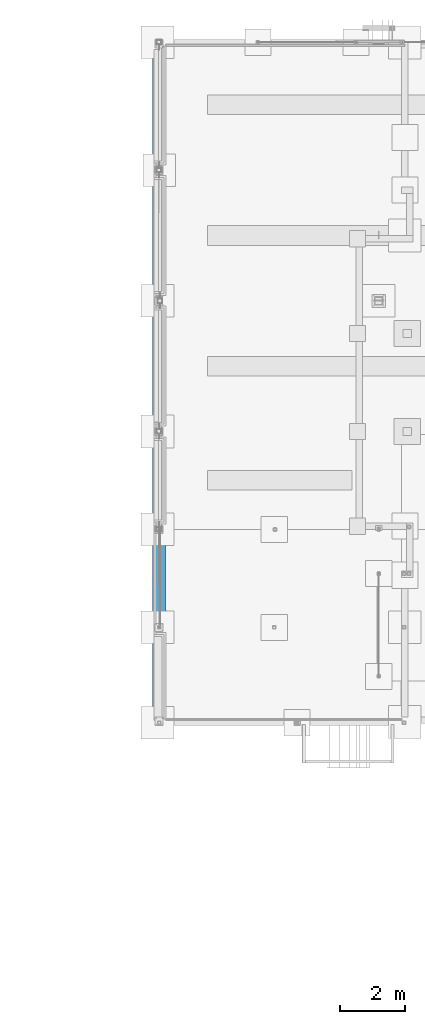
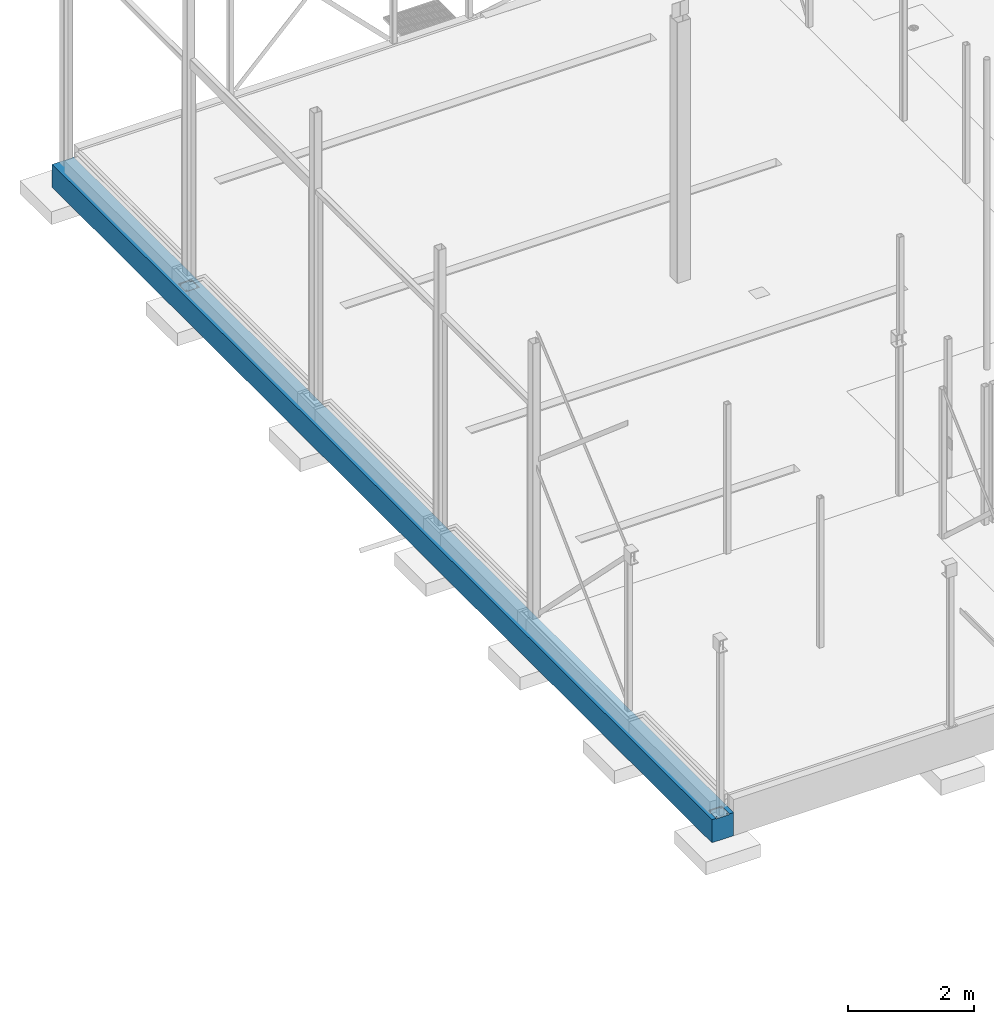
# One storey, part 13 of 18: 1 wall.
"""IFC2X3 building model written with IfcOpenShell, lengths in millimetres."""

import ifcopenshell
import ifcopenshell.guid

model = None  # the IFC model being written
_history = None  # IfcOwnerHistory: only IFC2X3 demands one
_inside = {}  # id of a spatial element -> (the spatial element, [elements in it])
_under = {}  # id of a project, library or spatial element -> (it, [spatial elements below it])
_declared = {}  # id of a project -> (the project, [libraries it declares])
_typed = {}  # id of a type object -> (the type object, [elements of that type])
_made_of = {}  # id of a material, layer set ... -> (it, [elements and type objects made of it])


def new_model(schema):
    """Start an empty IFC model of exactly this schema.

    Asked for "IFC4X3", IfcOpenShell would pick the latest addendum, in which some entities
    have other attributes; the version numbers below select the first issue.
    IFC2X3 requires an IfcOwnerHistory on every rooted entity: one is made here for all.
    """
    global model, _history
    if schema == "IFC4X3":
        model = ifcopenshell.file(schema_version=(4, 3, 0, 0))
    else:
        model = ifcopenshell.file(schema=schema)
    _inside.clear()
    _under.clear()
    _declared.clear()
    _typed.clear()
    _made_of.clear()
    _history = None
    if model.schema == "IFC2X3":
        org = make("IfcOrganization", Name="unknown")
        user = make(
            "IfcPersonAndOrganization",
            ThePerson=make("IfcPerson", FamilyName="unknown"),
            TheOrganization=org,
        )
        app = make(
            "IfcApplication",
            ApplicationDeveloper=org,
            Version="unknown",
            ApplicationFullName="unknown",
            ApplicationIdentifier="unknown",
        )
        _history = make(
            "IfcOwnerHistory",
            OwningUser=user,
            OwningApplication=app,
            ChangeAction="ADDED",
            CreationDate=0,
        )
    return model


def make(cls, **values):
    """One entity of the class cls with the attributes given. An attribute that is None is left unset."""
    return model.create_entity(
        cls, **{name: value for name, value in values.items() if value is not None}
    )


def entity(cls, *values):
    """Any entity or typed value of the class cls, its attributes in the order of the schema. None: left unset."""
    e = model.create_entity(cls)
    for i, value in enumerate(values):
        if value is not None:
            e[i] = value
    return e


def rooted(cls, **values):
    """An entity with a GlobalId (a new one), such as an element, a storey or a relation."""
    return make(cls, GlobalId=ifcopenshell.guid.new(), OwnerHistory=_history, **values)


def si_unit(unit_type, name, prefix=None):
    """IfcSIUnit, for example si_unit("LENGTHUNIT", "METRE", prefix="MILLI")."""
    return make("IfcSIUnit", UnitType=unit_type, Prefix=prefix, Name=name)


def converted_unit(unit_type, name, factor, base, dimensions=None, offset=None):
    """IfcConversionBasedUnit, such as the inch: factor (a typed value) times the base unit."""
    return make(
        "IfcConversionBasedUnit"
        if offset is None
        else "IfcConversionBasedUnitWithOffset",
        ConversionOffset=offset,
        Dimensions=None
        if dimensions is None
        else entity("IfcDimensionalExponents", *dimensions),
        UnitType=unit_type,
        Name=name,
        ConversionFactor=make(
            "IfcMeasureWithUnit", ValueComponent=factor, UnitComponent=base
        ),
    )


def derived_unit(unit_type, elements):
    """IfcDerivedUnit: a product of units, each with its exponent."""
    return make(
        "IfcDerivedUnit",
        Elements=[
            make("IfcDerivedUnitElement", Unit=unit, Exponent=power)
            for unit, power in elements
        ],
        UnitType=unit_type,
    )


def assignment(units):
    """IfcUnitAssignment: the units of a project."""
    return None if units is None else make("IfcUnitAssignment", Units=units)


def point(xyz):
    """IfcCartesianPoint."""
    return None if xyz is None else make("IfcCartesianPoint", Coordinates=xyz)


def direction(xyz):
    """IfcDirection."""
    return None if xyz is None else make("IfcDirection", DirectionRatios=xyz)


def frame(location, z_axis=None, x_axis=None):
    """IfcAxis2Placement3D, a coordinate frame: its origin and axes. An axis left out is left unset."""
    return make(
        "IfcAxis2Placement3D",
        Location=point(location),
        Axis=direction(z_axis),
        RefDirection=direction(x_axis),
    )


def origin():
    """The frame at (0, 0, 0) with its axes left unset."""
    return frame((0.0, 0.0, 0.0))


def place(relative_to, where):
    """IfcLocalPlacement: puts the frame where relative to a parent placement (None: the world)."""
    return make(
        "IfcLocalPlacement", PlacementRelTo=relative_to, RelativePlacement=where
    )


def context(
    kind, dimensions, precision=None, world=None, true_north=None, identifier=None
):
    """IfcGeometricRepresentationContext, for example the 3D "Model" context."""
    return make(
        "IfcGeometricRepresentationContext",
        ContextIdentifier=identifier,
        ContextType=kind,
        CoordinateSpaceDimension=dimensions,
        Precision=precision,
        WorldCoordinateSystem=world,
        TrueNorth=true_north,
    )


def subcontext(parent, identifier, kind, view, scale=None):
    """IfcGeometricRepresentationSubContext, for example "Body" below "Model"."""
    return make(
        "IfcGeometricRepresentationSubContext",
        ContextIdentifier=identifier,
        ContextType=kind,
        ParentContext=parent,
        TargetScale=scale,
        TargetView=view,
    )


def project(units=None, contexts=None):
    """IfcProject with its units and contexts."""
    return rooted(
        "IfcProject",
        Name="project",
        RepresentationContexts=contexts,
        UnitsInContext=assignment(units),
    )


def spatial(cls, under=None, at=None, **own):
    """A site, building, storey or space (cls), placed at a placement, below another one or the project."""
    s = rooted(cls, ObjectPlacement=at, **own)
    if under is not None:
        _under.setdefault(under.id(), (under, []))[1].append(s)
    return s


def faces_of(points, faces, orient=None, outer=None):
    """IfcFace entities. A face is a list of loops; a loop is a list of indices into points, from 0.

    orient and outer hold one flag for each loop. By default every Orientation is true, the
    first loop of a face is its IfcFaceOuterBound and the others are IfcFaceBound.
    """
    made = []
    for i, loops in enumerate(faces):
        bounds = []
        for j, loop in enumerate(loops):
            is_outer = j == 0 if outer is None else outer[i][j]
            bounds.append(
                make(
                    "IfcFaceOuterBound" if is_outer else "IfcFaceBound",
                    Bound=make("IfcPolyLoop", Polygon=[points[k] for k in loop]),
                    Orientation=True if orient is None else orient[i][j],
                )
            )
        made.append(make("IfcFace", Bounds=bounds))
    return made


def faceted_brep(points, faces, orient=None, outer=None, voids=None):
    """IfcFacetedBrep: a solid bounded by flat faces; with voids (closed shells), ...WithVoids."""
    shared = [point(p) for p in points]
    hull = make("IfcClosedShell", CfsFaces=faces_of(shared, faces, orient, outer))
    if voids is None:
        return make("IfcFacetedBrep", Outer=hull)
    return make(
        "IfcFacetedBrepWithVoids",
        Outer=hull,
        Voids=[
            make(cls, CfsFaces=faces_of(shared, fs, o, b)) for cls, fs, o, b in voids
        ],
    )


def shape(context_of_items, identifier, shape_type, items):
    """IfcShapeRepresentation: the items that make up one representation, for example the "Body"."""
    return make(
        "IfcShapeRepresentation",
        ContextOfItems=context_of_items,
        RepresentationIdentifier=identifier,
        RepresentationType=shape_type,
        Items=items,
    )


def material(Name=None, Category=None):
    """IfcMaterial."""
    return make("IfcMaterial", Name=Name, Category=Category)


def made_of(thing, what):
    """Note that an element or type object is made of a material, layer set ...; save() writes the relation."""
    if what is not None:
        _made_of.setdefault(what.id(), (what, []))[1].append(thing)
    return thing


def type_object(cls, material=None, **own):
    """A type object (cls), such as IfcWallType, which elements share."""
    return made_of(rooted(cls, **own), material)


def element(
    cls,
    number,
    at=None,
    inside=None,
    cuts=None,
    type_object=None,
    material=None,
    context=None,
    identifier="Body",
    shape_type=None,
    held_by="IfcProductDefinitionShape",
    body=None,
    shapes=None,
    **own,
):
    """One element of the class cls, such as IfcWall. Its Tag is "e" and its number.

    at: its placement. inside: the storey or other place that contains it. cuts: it is an
    opening in that element (IfcRelVoidsElement). A single representation is given by context,
    identifier, shape_type and body (its items); several are given by shapes. held_by: the class
    of the entity that holds the representations. save() writes the other relations.
    """
    e = rooted(cls, Tag="e%d" % number, ObjectPlacement=at, **own)
    if body is not None:
        shapes = [shape(context, identifier, shape_type, body)]
    if shapes is not None:
        e.Representation = make(held_by, Representations=shapes)
    if inside is not None:
        _inside.setdefault(inside.id(), (inside, []))[1].append(e)
    if cuts is not None:
        rooted(
            "IfcRelVoidsElement", RelatingBuildingElement=cuts, RelatedOpeningElement=e
        )
    if type_object is not None:
        _typed.setdefault(type_object.id(), (type_object, []))[1].append(e)
    return made_of(e, material)


def aggregate(whole, parts):
    """IfcRelAggregates: a whole, such as a stair, and the parts it consists of."""
    return rooted("IfcRelAggregates", RelatingObject=whole, RelatedObjects=parts)


def save(model, path):
    """Write the relations noted so far, then the file.

    IfcRelAggregates (storeys below a building ...), IfcRelContainedInSpatialStructure (elements
    in a storey), IfcRelDefinesByType, IfcRelAssociatesMaterial and IfcRelDeclares: one each for
    every whole, place, type object, material and project.
    """
    for whole, parts in _under.values():
        aggregate(whole, parts)
    for where, things in _inside.values():
        rooted(
            "IfcRelContainedInSpatialStructure",
            RelatedElements=things,
            RelatingStructure=where,
        )
    for kind, things in _typed.values():
        rooted("IfcRelDefinesByType", RelatedObjects=things, RelatingType=kind)
    for what, things in _made_of.values():
        rooted("IfcRelAssociatesMaterial", RelatedObjects=things, RelatingMaterial=what)
    for by, libraries in _declared.values():
        rooted("IfcRelDeclares", RelatingContext=by, RelatedDefinitions=libraries)
    model.write(path)


model = new_model("IFC2X3")

# Units and contexts
model_context = context("Model", 3, precision=0.01, world=origin(), true_north=direction((6.12303176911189e-17, 1.0)))
body_context = subcontext(model_context, "Body", "Model", "MODEL_VIEW")
ifc_project = project(units=[si_unit("LENGTHUNIT", "METRE", prefix="MILLI"), si_unit("AREAUNIT", "SQUARE_METRE"), si_unit("VOLUMEUNIT", "CUBIC_METRE"), converted_unit("PLANEANGLEUNIT", "DEGREE", entity("IfcRatioMeasure", 0.0174532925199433), si_unit("PLANEANGLEUNIT", "RADIAN"), dimensions=[0, 0, 0, 0, 0, 0, 0]), si_unit("MASSUNIT", "GRAM", prefix="KILO"), derived_unit("MASSDENSITYUNIT", [(si_unit("MASSUNIT", "GRAM", prefix="KILO"), 1), (si_unit("LENGTHUNIT", "METRE"), -3)]), si_unit("TIMEUNIT", "SECOND"), si_unit("FREQUENCYUNIT", "HERTZ"), si_unit("THERMODYNAMICTEMPERATUREUNIT", "DEGREE_CELSIUS"), derived_unit("THERMALTRANSMITTANCEUNIT", [(si_unit("MASSUNIT", "GRAM", prefix="KILO"), 1), (si_unit("THERMODYNAMICTEMPERATUREUNIT", "KELVIN"), -1), (si_unit("TIMEUNIT", "SECOND"), -3)]), derived_unit("VOLUMETRICFLOWRATEUNIT", [(si_unit("LENGTHUNIT", "METRE"), 3), (si_unit("TIMEUNIT", "SECOND"), -1)]), si_unit("ELECTRICCURRENTUNIT", "AMPERE"), si_unit("ELECTRICVOLTAGEUNIT", "VOLT"), si_unit("POWERUNIT", "WATT"), si_unit("FORCEUNIT", "NEWTON", prefix="KILO"), si_unit("ILLUMINANCEUNIT", "LUX"), si_unit("LUMINOUSFLUXUNIT", "LUMEN"), si_unit("LUMINOUSINTENSITYUNIT", "CANDELA"), derived_unit("USERDEFINED", [(si_unit("MASSUNIT", "GRAM", prefix="KILO"), -1), (si_unit("LENGTHUNIT", "METRE"), -2), (si_unit("TIMEUNIT", "SECOND"), 3), (si_unit("LUMINOUSFLUXUNIT", "LUMEN"), 1)]), derived_unit("LINEARVELOCITYUNIT", [(si_unit("LENGTHUNIT", "METRE"), 1), (si_unit("TIMEUNIT", "SECOND"), -1)]), si_unit("PRESSUREUNIT", "PASCAL"), derived_unit("USERDEFINED", [(si_unit("LENGTHUNIT", "METRE"), -2), (si_unit("MASSUNIT", "GRAM", prefix="KILO"), 1), (si_unit("TIMEUNIT", "SECOND"), -2)])], contexts=[model_context])

# Site, building, storey
site_placement = place(None, frame((0.0, 0.0, 101000.0)))
site = spatial("IfcSite", under=ifc_project, at=site_placement, Name="Default", CompositionType="ELEMENT")
building_placement = place(site_placement, origin())
building = spatial("IfcBuilding", under=site, at=building_placement, CompositionType="ELEMENT")
storey_placement = place(building_placement, origin())
storey = spatial("IfcBuildingStorey", under=building, at=storey_placement, Name="01", CompositionType="ELEMENT", Elevation=8.9295595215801e-10)

# Wall
ifc_material = material(Name="Betong Plasstøpt - B35")
wall_type = type_object("IfcWallType", Name="Basic Wall:OPPKANT 400", PredefinedType="NOTDEFINED")
wall_placement = place(storey_placement, frame((3761.26449698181, 23417.9507529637, -700.0), z_axis=(0.0, 0.0, 1.0), x_axis=(0.0, 1.0, 0.0)))
element("IfcWall", 1, at=wall_placement, inside=storey, type_object=wall_type, material=ifc_material, Name="Basic Wall:OPPKANT 400", ObjectType="Basic Wall:OPPKANT 400", context=body_context, shape_type="Brep", body=[
    faceted_brep([(34.0, 88.071796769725, 450.0), (30.0, 87.0, 450.0), (32.0705523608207, 87.2725933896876, 450.0), (36.9282032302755, 91.0, 450.0), (35.6568542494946, 89.3431457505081, 450.0), (37.7274066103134, 92.9294476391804, 450.0), (38.0, 95.0, 450.0), (26.0, 88.071796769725, 450.0), (23.0717967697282, 91.0, 450.0), (27.929447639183, 87.2725933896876, 450.0), (24.3431457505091, 89.3431457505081, 450.0), (22.0, 95.0, 450.0), (22.2725933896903, 92.9294476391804, 450.0), (36.9282032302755, 99.0, 450.0), (34.0, 101.928203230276, 450.0), (35.6568542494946, 100.656854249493, 450.0), (32.0705523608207, 102.727406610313, 450.0), (30.0, 103.0, 450.0), (26.0, 101.928203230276, 450.0), (23.0717967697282, 99.0, 450.0), (22.2725933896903, 97.0705523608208, 450.0), (24.3431457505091, 100.656854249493, 450.0), (27.929447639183, 102.727406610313, 450.0), (37.7274066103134, 97.0705523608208, 450.0), (224.0, 88.0717967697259, 450.0), (220.0, 87.0, 450.0), (222.070552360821, 87.2725933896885, 450.0), (226.928203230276, 91.0, 450.0), (225.656854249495, 89.343145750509, 450.0), (227.727406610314, 92.9294476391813, 450.0), (228.0, 95.0, 450.0), (216.0, 88.0717967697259, 450.0), (213.071796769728, 91.0, 450.0), (217.929447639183, 87.2725933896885, 450.0), (214.343145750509, 89.343145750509, 450.0), (212.0, 95.0, 450.0), (212.27259338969, 92.9294476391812, 450.0), (226.928203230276, 99.0, 450.0), (224.0, 101.928203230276, 450.0), (225.656854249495, 100.656854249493, 450.0), (222.070552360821, 102.727406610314, 450.0), (220.0, 103.0, 450.0), (216.0, 101.928203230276, 450.0), (213.071796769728, 99.0, 450.0), (212.27259338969, 97.0705523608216, 450.0), (214.343145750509, 100.656854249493, 450.0), (217.929447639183, 102.727406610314, 450.0), (227.727406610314, 97.0705523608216, 450.0), (17097.0705523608, 87.272593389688, 450.0), (17099.0, 88.0717967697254, 450.0), (17100.6568542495, 89.3431457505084, 450.0), (17095.0, 87.0, 450.0), (17101.9282032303, 91.0, 450.0), (17102.7274066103, 92.9294476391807, 450.0), (17103.0, 95.0, 450.0), (17089.3431457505, 100.656854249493, 450.0), (17089.3431457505, 89.3431457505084, 450.0), (17092.9294476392, 87.272593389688, 450.0), (17091.0, 88.0717967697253, 450.0), (17088.0717967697, 91.0, 450.0), (17087.0, 95.0, 450.0), (17087.2725933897, 92.9294476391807, 450.0), (17100.6568542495, 100.656854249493, 450.0), (17101.9282032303, 99.0, 450.0), (17097.0705523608, 102.727406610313, 450.0), (17095.0, 103.0, 450.0), (17099.0, 101.928203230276, 450.0), (17088.0717967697, 99.0, 450.0), (17087.2725933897, 97.0705523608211, 450.0), (17092.9294476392, 102.727406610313, 450.0), (17091.0, 101.928203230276, 450.0), (17102.7274066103, 97.0705523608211, 450.0), (16907.0705523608, 87.2725933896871, 450.0), (16909.0, 88.0717967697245, 450.0), (16910.6568542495, 89.3431457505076, 450.0), (16905.0, 87.0, 450.0), (16911.9282032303, 91.0, 450.0), (16912.7274066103, 92.9294476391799, 450.0), (16913.0, 95.0, 450.0), (16899.3431457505, 100.656854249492, 450.0), (16899.3431457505, 89.3431457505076, 450.0), (16902.9294476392, 87.2725933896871, 450.0), (16901.0, 88.0717967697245, 450.0), (16898.0717967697, 91.0, 450.0), (16897.0, 95.0, 450.0), (16897.2725933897, 92.9294476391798, 450.0), (16910.6568542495, 100.656854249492, 450.0), (16911.9282032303, 99.0, 450.0), (16907.0705523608, 102.727406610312, 450.0), (16905.0, 103.0, 450.0), (16909.0, 101.928203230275, 450.0), (16898.0717967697, 99.0, 450.0), (16897.2725933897, 97.0705523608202, 450.0), (16902.9294476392, 102.727406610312, 450.0), (16901.0, 101.928203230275, 450.0), (16912.7274066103, 97.0705523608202, 450.0), (34.0, -101.928203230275, 450.0), (30.0, -103.0, 450.0), (32.0705523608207, -102.727406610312, 450.0), (36.9282032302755, -99.0, 450.0), (35.6568542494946, -100.656854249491, 450.0), (37.7274066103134, -97.0705523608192, 450.0), (38.0, -95.0, 450.0), (26.0, -101.928203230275, 450.0), (23.0717967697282, -99.0, 450.0), (27.929447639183, -102.727406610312, 450.0), (24.3431457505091, -100.656854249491, 450.0), (22.0, -95.0, 450.0), (22.2725933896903, -97.0705523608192, 450.0), (36.9282032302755, -91.0, 450.0), (34.0, -88.071796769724, 450.0), (35.6568542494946, -89.343145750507, 450.0), (32.0705523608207, -87.2725933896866, 450.0), (30.0, -87.0, 450.0), (26.0, -88.071796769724, 450.0), (23.0717967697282, -91.0, 450.0), (22.2725933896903, -92.9294476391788, 450.0), (24.3431457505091, -89.343145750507, 450.0), (27.929447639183, -87.2725933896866, 450.0), (37.7274066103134, -92.9294476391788, 450.0), (224.0, -101.928203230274, 450.0), (220.0, -103.0, 450.0), (222.070552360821, -102.727406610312, 450.0), (226.928203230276, -99.0, 450.0), (225.656854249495, -100.656854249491, 450.0), (227.727406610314, -97.0705523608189, 450.0), (228.0, -95.0, 450.0), (216.0, -101.928203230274, 450.0), (213.071796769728, -99.0, 450.0), (217.929447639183, -102.727406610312, 450.0), (214.343145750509, -100.656854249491, 450.0), (212.0, -95.0, 450.0), (212.27259338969, -97.0705523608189, 450.0), (226.928203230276, -91.0, 450.0), (224.0, -88.0717967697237, 450.0), (225.656854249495, -89.3431457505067, 450.0), (222.070552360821, -87.2725933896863, 450.0), (220.0, -87.0, 450.0), (216.0, -88.0717967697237, 450.0), (213.071796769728, -91.0, 450.0), (212.27259338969, -92.9294476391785, 450.0), (214.343145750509, -89.3431457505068, 450.0), (217.929447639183, -87.2725933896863, 450.0), (227.727406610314, -92.9294476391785, 450.0), (16907.0705523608, -102.727406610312, 450.0), (16909.0, -101.928203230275, 450.0), (16910.6568542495, -100.656854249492, 450.0), (16905.0, -103.0, 450.0), (16911.9282032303, -99.0, 450.0), (16912.7274066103, -97.0705523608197, 450.0), (16913.0, -95.0, 450.0), (16899.3431457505, -89.3431457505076, 450.0), (16899.3431457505, -100.656854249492, 450.0), (16902.9294476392, -102.727406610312, 450.0), (16901.0, -101.928203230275, 450.0), (16898.0717967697, -99.0, 450.0), (16897.0, -95.0, 450.0), (16897.2725933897, -97.0705523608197, 450.0), (16910.6568542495, -89.3431457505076, 450.0), (16911.9282032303, -91.0, 450.0), (16907.0705523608, -87.2725933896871, 450.0), (16905.0, -87.0, 450.0), (16909.0, -88.0717967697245, 450.0), (16898.0717967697, -91.0, 450.0), (16897.2725933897, -92.9294476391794, 450.0), (16902.9294476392, -87.2725933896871, 450.0), (16901.0, -88.0717967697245, 450.0), (16912.7274066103, -92.9294476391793, 450.0), (17097.0705523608, -102.727406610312, 450.0), (17099.0, -101.928203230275, 450.0), (17100.6568542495, -100.656854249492, 450.0), (17095.0, -103.0, 450.0), (17101.9282032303, -99.0, 450.0), (17102.7274066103, -97.0705523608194, 450.0), (17103.0, -95.0, 450.0), (17089.3431457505, -89.3431457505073, 450.0), (17089.3431457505, -100.656854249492, 450.0), (17092.9294476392, -102.727406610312, 450.0), (17091.0, -101.928203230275, 450.0), (17088.0717967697, -99.0, 450.0), (17087.0, -95.0, 450.0), (17087.2725933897, -97.0705523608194, 450.0), (17100.6568542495, -89.3431457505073, 450.0), (17101.9282032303, -91.0, 450.0), (17097.0705523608, -87.2725933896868, 450.0), (17095.0, -87.0, 450.0), (17099.0, -88.0717967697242, 450.0), (17088.0717967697, -91.0, 450.0), (17087.2725933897, -92.9294476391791, 450.0), (17092.9294476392, -87.2725933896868, 450.0), (17091.0, -88.0717967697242, 450.0), (17102.7274066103, -92.929447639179, 450.0), (21000.0, -200.0, 450.0), (17125.0, -125.0, 450.0), (16875.0, -125.0, 450.0), (17125.0, 125.0, 450.0), (0.0, -200.0, 450.0), (250.0, -125.0, 450.0), (0.0, -125.0, 450.0), (16875.0, 125.0, 450.0), (21000.0, 200.0, 450.0), (0.0, 200.0, 450.0), (250.0, 125.0, 450.0), (0.0, 125.0, 450.0), (0.0, -200.0, 0.0), (21000.0, -200.0, 0.0), (21000.0, 200.0, 0.0), (0.0, 200.0, 0.0), (0.0, -125.0, 435.0), (0.0, 125.0, 435.0), (17097.0705523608, 102.727406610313, 435.0), (17099.0, 101.928203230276, 435.0), (17125.0, 125.0, 435.0), (17100.6568542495, 100.656854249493, 435.0), (17095.0, 103.0, 435.0), (17101.9282032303, 99.0, 435.0), (17102.7274066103, 97.0705523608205, 435.0), (17103.0, 95.0, 435.0), (17091.0, 101.928203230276, 435.0), (17092.9294476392, 102.727406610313, 435.0), (16912.7274066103, 97.0705523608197, 435.0), (17087.2725933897, 97.0705523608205, 435.0), (17088.0717967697, 99.0, 435.0), (16911.9282032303, 99.0, 435.0), (17089.3431457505, 100.656854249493, 435.0), (16910.6568542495, 100.656854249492, 435.0), (16909.0, 101.928203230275, 435.0), (17102.7274066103, 92.9294476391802, 435.0), (17101.9282032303, 91.0, 435.0), (17099.0, -88.0717967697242, 435.0), (17100.6568542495, 89.3431457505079, 435.0), (17099.0, 88.0717967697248, 435.0), (17097.0705523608, -87.2725933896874, 435.0), (17097.0705523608, 87.272593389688, 435.0), (17100.6568542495, -89.3431457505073, 435.0), (16912.7274066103, 92.9294476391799, 435.0), (17088.0717967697, 91.0, 435.0), (17087.2725933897, 92.9294476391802, 435.0), (17087.0, 95.0, 435.0), (17091.0, 88.0717967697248, 435.0), (17092.9294476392, -87.2725933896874, 435.0), (17092.9294476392, 87.272593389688, 435.0), (17089.3431457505, 89.3431457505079, 435.0), (16910.6568542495, 89.3431457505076, 435.0), (16910.6568542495, -89.3431457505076, 435.0), (17091.0, -88.0717967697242, 435.0), (16911.9282032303, 91.0, 435.0), (17095.0, 87.0, 435.0), (17095.0, -87.0, 435.0), (17101.9282032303, -91.0, 435.0), (16913.0, 95.0, 435.0), (16875.0, 125.0, 435.0), (16905.0, 103.0, 435.0), (16907.0705523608, 102.727406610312, 435.0), (16901.0, 101.928203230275, 435.0), (16902.9294476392, 102.727406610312, 435.0), (16899.3431457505, 100.656854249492, 435.0), (16897.2725933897, 97.0705523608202, 435.0), (16898.0717967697, 99.0, 435.0), (16897.0, 95.0, 435.0), (16909.0, 88.0717967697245, 435.0), (16909.0, -88.0717967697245, 435.0), (16907.0705523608, 87.2725933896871, 435.0), (16907.0705523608, -87.2725933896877, 435.0), (16898.0717967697, 91.0, 435.0), (16897.2725933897, 92.9294476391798, 435.0), (16905.0, -87.0, 435.0), (16905.0, 87.0, 435.0), (16902.9294476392, 87.2725933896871, 435.0), (16901.0, -88.0717967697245, 435.0), (16901.0, 88.0717967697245, 435.0), (16899.3431457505, 89.3431457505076, 435.0), (16902.9294476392, -87.2725933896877, 435.0), (16899.3431457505, -89.3431457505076, 435.0), (16898.0717967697, -91.0, 435.0), (17125.0, -125.0, 435.0), (17102.7274066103, -92.9294476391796, 435.0), (17089.3431457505, -89.3431457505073, 435.0), (16912.7274066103, -92.9294476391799, 435.0), (17087.0, -95.0, 435.0), (17087.2725933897, -92.9294476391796, 435.0), (17088.0717967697, -91.0, 435.0), (16911.9282032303, -91.0, 435.0), (17103.0, -95.0, 435.0), (17102.7274066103, -97.0705523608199, 435.0), (17101.9282032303, -99.0, 435.0), (17099.0, -101.928203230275, 435.0), (17100.6568542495, -100.656854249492, 435.0), (17097.0705523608, -102.727406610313, 435.0), (16911.9282032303, -99.0, 435.0), (17089.3431457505, -100.656854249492, 435.0), (17088.0717967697, -99.0, 435.0), (16912.7274066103, -97.0705523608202, 435.0), (17087.2725933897, -97.07055236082, 435.0), (17095.0, -103.0, 435.0), (17092.9294476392, -102.727406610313, 435.0), (17091.0, -101.928203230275, 435.0), (16910.6568542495, -100.656854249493, 435.0), (16909.0, -101.928203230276, 435.0), (16913.0, -95.0, 435.0), (16875.0, -125.0, 435.0), (16897.2725933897, -92.9294476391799, 435.0), (16907.0705523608, -102.727406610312, 435.0), (16905.0, -103.0, 435.0), (16898.0717967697, -99.0, 435.0), (16897.2725933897, -97.0705523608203, 435.0), (16897.0, -95.0, 435.0), (16902.9294476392, -102.727406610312, 435.0), (16901.0, -101.928203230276, 435.0), (16899.3431457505, -100.656854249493, 435.0), (222.070552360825, 102.727406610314, 435.0), (224.0, 101.928203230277, 435.0), (250.0, 125.0, 435.0), (225.656854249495, 100.656854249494, 435.0), (220.0, 103.0, 435.0), (226.92820323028, 99.0, 435.0), (227.727406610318, 97.0705523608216, 435.0), (228.0, 95.0, 435.0), (216.0, 101.928203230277, 435.0), (217.929447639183, 102.727406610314, 435.0), (37.7274066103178, 97.0705523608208, 435.0), (212.27259338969, 97.0705523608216, 435.0), (213.071796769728, 99.0, 435.0), (36.9282032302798, 99.0, 435.0), (214.343145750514, 100.656854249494, 435.0), (35.6568542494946, 100.656854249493, 435.0), (34.0, 101.928203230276, 435.0), (227.727406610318, 92.9294476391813, 435.0), (226.92820323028, 91.0, 435.0), (224.0, -88.0717967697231, 435.0), (225.656854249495, 89.343145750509, 435.0), (224.0, 88.0717967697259, 435.0), (222.070552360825, -87.2725933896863, 435.0), (222.070552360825, 87.272593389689, 435.0), (225.656854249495, -89.3431457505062, 435.0), (37.7274066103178, 92.929447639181, 435.0), (213.071796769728, 91.0, 435.0), (212.27259338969, 92.9294476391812, 435.0), (212.0, 95.0, 435.0), (216.0, 88.0717967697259, 435.0), (217.929447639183, -87.2725933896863, 435.0), (217.929447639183, 87.272593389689, 435.0), (214.343145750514, 89.343145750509, 435.0), (35.6568542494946, 89.3431457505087, 435.0), (35.6568542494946, -89.3431457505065, 435.0), (216.0, -88.0717967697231, 435.0), (36.9282032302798, 91.0, 435.0), (220.0, 87.0, 435.0), (220.0, -87.0, 435.0), (226.92820323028, -91.0, 435.0), (38.0, 95.0, 435.0), (30.0, 103.0, 435.0), (32.070552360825, 102.727406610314, 435.0), (26.0, 101.928203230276, 435.0), (27.929447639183, 102.727406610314, 435.0), (24.3431457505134, 100.656854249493, 435.0), (22.2725933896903, 97.0705523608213, 435.0), (23.0717967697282, 99.0, 435.0), (22.0, 95.0, 435.0), (34.0, 88.0717967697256, 435.0), (34.0, -88.0717967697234, 435.0), (32.070552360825, 87.2725933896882, 435.0), (32.070552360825, -87.2725933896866, 435.0), (23.0717967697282, 91.0, 435.0), (22.2725933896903, 92.9294476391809, 435.0), (30.0, -87.0, 435.0), (30.0, 87.0, 435.0), (27.929447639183, 87.2725933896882, 435.0), (26.0, -88.0717967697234, 435.0), (26.0, 88.0717967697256, 435.0), (24.3431457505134, 89.3431457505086, 435.0), (27.929447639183, -87.2725933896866, 435.0), (24.3431457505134, -89.3431457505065, 435.0), (23.0717967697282, -91.0, 435.0), (250.0, -125.0, 435.0), (227.727406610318, -92.9294476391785, 435.0), (214.343145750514, -89.3431457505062, 435.0), (37.7274066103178, -92.9294476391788, 435.0), (212.0, -95.0, 435.0), (212.27259338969, -92.9294476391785, 435.0), (213.071796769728, -91.0, 435.0), (36.9282032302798, -91.0, 435.0), (228.0, -95.0, 435.0), (227.727406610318, -97.0705523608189, 435.0), (226.92820323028, -99.0, 435.0), (224.0, -101.928203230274, 435.0), (225.656854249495, -100.656854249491, 435.0), (222.070552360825, -102.727406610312, 435.0), (36.9282032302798, -99.0, 435.0), (214.343145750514, -100.656854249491, 435.0), (213.071796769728, -99.0, 435.0), (37.7274066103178, -97.0705523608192, 435.0), (212.27259338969, -97.0705523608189, 435.0), (220.0, -103.0, 435.0), (217.929447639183, -102.727406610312, 435.0), (216.0, -101.928203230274, 435.0), (35.6568542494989, -100.656854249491, 435.0), (34.0, -101.928203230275, 435.0), (38.0, -95.0, 435.0), (22.2725933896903, -92.9294476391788, 435.0), (32.070552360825, -102.727406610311, 435.0), (30.0, -103.0, 435.0), (23.0717967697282, -99.0, 435.0), (22.2725933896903, -97.0705523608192, 435.0), (22.0, -95.0, 435.0), (27.929447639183, -102.727406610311, 435.0), (26.0, -101.928203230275, 435.0), (24.3431457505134, -100.656854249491, 435.0)], [[[0, 1, 2]], [[3, 0, 4]], [[3, 5, 6]], [[7, 0, 3]], [[8, 3, 6]], [[1, 7, 9]], [[1, 0, 7]], [[7, 8, 10]], [[3, 8, 7]], [[8, 11, 12]], [[8, 6, 11]], [[11, 6, 13]], [[14, 13, 15]], [[14, 16, 17]], [[13, 14, 18]], [[17, 18, 14]], [[11, 19, 20]], [[11, 13, 19]], [[19, 18, 21]], [[19, 13, 18]], [[22, 18, 17]], [[13, 6, 23]], [[24, 25, 26]], [[27, 24, 28]], [[27, 29, 30]], [[31, 24, 27]], [[32, 27, 30]], [[25, 31, 33]], [[25, 24, 31]], [[31, 32, 34]], [[27, 32, 31]], [[32, 35, 36]], [[32, 30, 35]], [[35, 30, 37]], [[38, 37, 39]], [[38, 40, 41]], [[37, 38, 42]], [[41, 42, 38]], [[35, 43, 44]], [[35, 37, 43]], [[43, 42, 45]], [[43, 37, 42]], [[46, 42, 41]], [[37, 30, 47]], [[48, 49, 50]], [[51, 48, 50]], [[52, 53, 54]], [[52, 54, 50]], [[55, 56, 50]], [[57, 56, 58]], [[56, 57, 51]], [[59, 60, 61]], [[56, 51, 50]], [[59, 56, 60]], [[62, 50, 54]], [[63, 62, 54]], [[62, 55, 50]], [[64, 65, 62]], [[64, 62, 66]], [[55, 62, 65]], [[60, 67, 68]], [[67, 60, 55]], [[55, 69, 70]], [[60, 56, 55]], [[65, 69, 55]], [[54, 71, 63]], [[72, 73, 74]], [[75, 72, 74]], [[76, 77, 78]], [[76, 78, 74]], [[79, 80, 74]], [[81, 80, 82]], [[80, 81, 75]], [[83, 84, 85]], [[80, 75, 74]], [[83, 80, 84]], [[86, 74, 78]], [[87, 86, 78]], [[86, 79, 74]], [[88, 89, 86]], [[88, 86, 90]], [[79, 86, 89]], [[84, 91, 92]], [[91, 84, 79]], [[79, 93, 94]], [[84, 80, 79]], [[89, 93, 79]], [[78, 95, 87]], [[96, 97, 98]], [[99, 96, 100]], [[99, 101, 102]], [[103, 96, 99]], [[104, 99, 102]], [[97, 103, 105]], [[97, 96, 103]], [[103, 104, 106]], [[99, 104, 103]], [[104, 107, 108]], [[104, 102, 107]], [[107, 102, 109]], [[110, 109, 111]], [[110, 112, 113]], [[109, 110, 114]], [[113, 114, 110]], [[107, 115, 116]], [[107, 109, 115]], [[115, 114, 117]], [[115, 109, 114]], [[118, 114, 113]], [[109, 102, 119]], [[120, 121, 122]], [[123, 120, 124]], [[123, 125, 126]], [[127, 120, 123]], [[128, 123, 126]], [[121, 127, 129]], [[121, 120, 127]], [[127, 128, 130]], [[123, 128, 127]], [[128, 131, 132]], [[128, 126, 131]], [[131, 126, 133]], [[134, 133, 135]], [[134, 136, 137]], [[133, 134, 138]], [[137, 138, 134]], [[131, 139, 140]], [[131, 133, 139]], [[139, 138, 141]], [[139, 133, 138]], [[142, 138, 137]], [[133, 126, 143]], [[144, 145, 146]], [[147, 144, 146]], [[148, 149, 150]], [[148, 150, 146]], [[151, 152, 146]], [[153, 152, 154]], [[152, 153, 147]], [[155, 156, 157]], [[152, 147, 146]], [[155, 152, 156]], [[158, 146, 150]], [[159, 158, 150]], [[158, 151, 146]], [[160, 161, 158]], [[160, 158, 162]], [[151, 158, 161]], [[156, 163, 164]], [[163, 156, 151]], [[151, 165, 166]], [[156, 152, 151]], [[161, 165, 151]], [[150, 167, 159]], [[168, 169, 170]], [[171, 168, 170]], [[172, 173, 174]], [[172, 174, 170]], [[175, 176, 170]], [[177, 176, 178]], [[176, 177, 171]], [[179, 180, 181]], [[176, 171, 170]], [[179, 176, 180]], [[182, 170, 174]], [[183, 182, 174]], [[182, 175, 170]], [[184, 185, 182]], [[184, 182, 186]], [[175, 182, 185]], [[180, 187, 188]], [[187, 180, 175]], [[175, 189, 190]], [[180, 176, 175]], [[185, 189, 175]], [[174, 191, 183]], [[192, 193, 194]], [[193, 192, 195]], [[192, 194, 196]], [[196, 197, 198]], [[197, 196, 194]], [[194, 199, 197]], [[199, 195, 200]], [[200, 195, 192]], [[199, 200, 201]], [[202, 201, 203]], [[201, 202, 199]], [[199, 202, 197]], [[196, 204, 205, 192]], [[200, 206, 207, 201]], [[205, 204, 207, 206]], [[192, 205, 206, 200]], [[196, 198, 208, 209, 203, 201, 207, 204]], [[210, 211, 212]], [[213, 212, 211]], [[214, 210, 212]], [[212, 213, 215]], [[212, 215, 216]], [[216, 217, 212]], [[212, 218, 219]], [[212, 219, 214]], [[220, 221, 222]], [[223, 222, 224]], [[225, 224, 218]], [[226, 218, 212]], [[212, 217, 227]], [[212, 227, 228]], [[229, 230, 231]], [[232, 231, 233]], [[230, 234, 228]], [[235, 236, 237]], [[235, 237, 238]], [[239, 240, 241]], [[242, 243, 244]], [[239, 242, 245]], [[246, 242, 236]], [[247, 248, 233]], [[228, 249, 212]], [[250, 238, 221]], [[251, 252, 253]], [[251, 253, 226]], [[224, 225, 223]], [[222, 223, 220]], [[225, 218, 226]], [[254, 255, 251]], [[252, 251, 255]], [[256, 254, 251]], [[251, 257, 258]], [[251, 258, 256]], [[259, 257, 251]], [[212, 251, 226]], [[238, 250, 235]], [[236, 235, 246]], [[243, 260, 261]], [[260, 262, 263]], [[243, 242, 246]], [[251, 264, 265]], [[251, 265, 259]], [[266, 267, 268]], [[269, 270, 271]], [[270, 272, 268]], [[273, 271, 264]], [[263, 262, 267]], [[250, 221, 220]], [[274, 264, 251]], [[240, 247, 241]], [[233, 248, 232]], [[231, 232, 229]], [[228, 234, 249]], [[275, 249, 276]], [[234, 230, 229]], [[277, 242, 244]], [[277, 245, 242]], [[278, 279, 280]], [[278, 280, 281]], [[282, 281, 277]], [[245, 240, 239]], [[275, 283, 284]], [[275, 284, 285]], [[286, 275, 287]], [[285, 287, 275]], [[288, 275, 286]], [[275, 276, 283]], [[289, 290, 291]], [[292, 291, 293]], [[275, 288, 294]], [[275, 295, 296]], [[295, 275, 294]], [[297, 296, 290]], [[296, 298, 275]], [[275, 212, 249]], [[299, 293, 279]], [[261, 260, 263]], [[244, 243, 261]], [[281, 282, 278]], [[279, 278, 299]], [[282, 277, 244]], [[270, 269, 272]], [[268, 272, 266]], [[300, 301, 274]], [[264, 274, 273]], [[271, 273, 269]], [[263, 267, 266]], [[291, 292, 289]], [[290, 289, 297]], [[300, 298, 302]], [[300, 302, 303]], [[298, 296, 297]], [[300, 304, 305]], [[300, 305, 306]], [[300, 307, 308]], [[304, 300, 309]], [[308, 309, 300]], [[300, 303, 307]], [[301, 300, 306]], [[300, 275, 298]], [[292, 293, 299]], [[251, 300, 274]], [[248, 247, 240]], [[310, 311, 312]], [[313, 312, 311]], [[314, 310, 312]], [[312, 313, 315]], [[312, 315, 316]], [[316, 317, 312]], [[312, 318, 319]], [[312, 319, 314]], [[320, 321, 322]], [[323, 322, 324]], [[325, 324, 318]], [[326, 318, 312]], [[312, 317, 327]], [[312, 327, 328]], [[329, 330, 331]], [[332, 331, 333]], [[330, 334, 328]], [[335, 336, 337]], [[335, 337, 338]], [[339, 340, 341]], [[342, 343, 344]], [[339, 342, 345]], [[346, 342, 336]], [[347, 348, 333]], [[328, 349, 312]], [[350, 338, 321]], [[209, 351, 352]], [[209, 352, 326]], [[324, 325, 323]], [[322, 323, 320]], [[325, 318, 326]], [[353, 354, 209]], [[351, 209, 354]], [[355, 353, 209]], [[209, 356, 357]], [[209, 357, 355]], [[358, 356, 209]], [[312, 209, 326]], [[338, 350, 335]], [[336, 335, 346]], [[343, 359, 360]], [[359, 361, 362]], [[343, 342, 346]], [[209, 363, 364]], [[209, 364, 358]], [[365, 366, 367]], [[368, 369, 370]], [[369, 371, 367]], [[372, 370, 363]], [[362, 361, 366]], [[350, 321, 320]], [[373, 363, 209]], [[340, 347, 341]], [[333, 348, 332]], [[331, 332, 329]], [[328, 334, 349]], [[374, 349, 375]], [[334, 330, 329]], [[376, 342, 344]], [[376, 345, 342]], [[377, 378, 379]], [[377, 379, 380]], [[381, 380, 376]], [[345, 340, 339]], [[374, 382, 383]], [[374, 383, 384]], [[385, 374, 386]], [[384, 386, 374]], [[387, 374, 385]], [[374, 375, 382]], [[388, 389, 390]], [[391, 390, 392]], [[374, 387, 393]], [[374, 394, 395]], [[394, 374, 393]], [[396, 395, 389]], [[395, 397, 374]], [[374, 312, 349]], [[398, 392, 378]], [[360, 359, 362]], [[344, 343, 360]], [[380, 381, 377]], [[378, 377, 398]], [[381, 376, 344]], [[369, 368, 371]], [[367, 371, 365]], [[208, 399, 373]], [[363, 373, 372]], [[370, 372, 368]], [[362, 366, 365]], [[390, 391, 388]], [[389, 388, 396]], [[208, 397, 400]], [[208, 400, 401]], [[397, 395, 396]], [[208, 402, 403]], [[208, 403, 404]], [[208, 405, 406]], [[402, 208, 407]], [[406, 407, 208]], [[208, 401, 405]], [[399, 208, 404]], [[208, 374, 397]], [[391, 392, 398]], [[209, 208, 373]], [[348, 347, 340]], [[212, 275, 193, 195]], [[251, 212, 195, 199]], [[209, 312, 202, 203]], [[300, 251, 199, 194]], [[275, 300, 194, 193]], [[374, 208, 198, 197]], [[219, 69, 65, 214]], [[218, 70, 69, 219]], [[67, 55, 224, 222]], [[218, 224, 55, 70]], [[68, 67, 222, 221]], [[60, 68, 221, 238]], [[237, 61, 60, 238]], [[236, 59, 61, 237]], [[58, 56, 242, 239]], [[236, 242, 56, 59]], [[57, 58, 239, 241]], [[51, 57, 241, 247]], [[233, 48, 51, 247]], [[231, 49, 48, 233]], [[52, 50, 230, 228]], [[231, 230, 50, 49]], [[53, 52, 228, 227]], [[54, 53, 227, 217]], [[216, 71, 54, 217]], [[215, 63, 71, 216]], [[66, 62, 213, 211]], [[215, 213, 62, 63]], [[64, 66, 211, 210]], [[65, 64, 210, 214]], [[272, 165, 161, 266]], [[269, 166, 165, 272]], [[151, 273, 274, 163]], [[269, 273, 151, 166]], [[163, 274, 301, 164]], [[164, 301, 306, 156]], [[304, 155, 157, 305]], [[309, 152, 155, 304]], [[154, 308, 307, 153]], [[309, 308, 154, 152]], [[153, 307, 303, 147]], [[157, 156, 306, 305]], [[302, 144, 147, 303]], [[298, 145, 144, 302]], [[146, 297, 289, 148]], [[298, 297, 146, 145]], [[148, 289, 292, 149]], [[149, 292, 299, 150]], [[282, 159, 167, 278]], [[244, 158, 159, 282]], [[162, 261, 263, 160]], [[244, 261, 162, 158]], [[160, 263, 266, 161]], [[167, 150, 299, 278]], [[255, 93, 89, 252]], [[254, 94, 93, 255]], [[79, 256, 258, 91]], [[254, 256, 79, 94]], [[91, 258, 257, 92]], [[92, 257, 259, 84]], [[264, 83, 85, 265]], [[271, 80, 83, 264]], [[82, 270, 268, 81]], [[271, 270, 82, 80]], [[81, 268, 267, 75]], [[85, 84, 259, 265]], [[262, 72, 75, 267]], [[260, 73, 72, 262]], [[74, 243, 246, 76]], [[260, 243, 74, 73]], [[76, 246, 235, 77]], [[77, 235, 250, 78]], [[223, 87, 95, 220]], [[225, 86, 87, 223]], [[90, 226, 253, 88]], [[225, 226, 90, 86]], [[88, 253, 252, 89]], [[95, 78, 250, 220]], [[240, 189, 185, 248]], [[245, 190, 189, 240]], [[175, 277, 281, 187]], [[245, 277, 175, 190]], [[187, 281, 280, 188]], [[188, 280, 279, 180]], [[291, 179, 181, 293]], [[290, 176, 179, 291]], [[178, 296, 295, 177]], [[290, 296, 178, 176]], [[177, 295, 294, 171]], [[181, 180, 279, 293]], [[288, 168, 171, 294]], [[286, 169, 168, 288]], [[170, 287, 285, 172]], [[286, 287, 170, 169]], [[172, 285, 284, 173]], [[173, 284, 283, 174]], [[249, 183, 191, 276]], [[234, 182, 183, 249]], [[186, 229, 232, 184]], [[234, 229, 186, 182]], [[184, 232, 248, 185]], [[191, 174, 283, 276]], [[312, 374, 197, 202]], [[319, 46, 41, 314]], [[318, 42, 46, 319]], [[43, 45, 324, 322]], [[318, 324, 45, 42]], [[44, 43, 322, 321]], [[35, 44, 321, 338]], [[337, 36, 35, 338]], [[336, 32, 36, 337]], [[31, 34, 342, 339]], [[336, 342, 34, 32]], [[33, 31, 339, 341]], [[25, 33, 341, 347]], [[333, 26, 25, 347]], [[331, 24, 26, 333]], [[27, 28, 330, 328]], [[331, 330, 28, 24]], [[29, 27, 328, 327]], [[30, 29, 327, 317]], [[316, 47, 30, 317]], [[315, 37, 47, 316]], [[38, 39, 313, 311]], [[315, 313, 39, 37]], [[40, 38, 311, 310]], [[41, 40, 310, 314]], [[371, 118, 113, 365]], [[368, 114, 118, 371]], [[117, 372, 373, 115]], [[368, 372, 117, 114]], [[115, 373, 399, 116]], [[116, 399, 404, 107]], [[402, 104, 108, 403]], [[407, 106, 104, 402]], [[103, 406, 405, 105]], [[407, 406, 103, 106]], [[105, 405, 401, 97]], [[108, 107, 404, 403]], [[400, 98, 97, 401]], [[397, 96, 98, 400]], [[100, 396, 388, 99]], [[397, 396, 100, 96]], [[99, 388, 391, 101]], [[101, 391, 398, 102]], [[381, 109, 119, 377]], [[344, 111, 109, 381]], [[110, 360, 362, 112]], [[344, 360, 110, 111]], [[112, 362, 365, 113]], [[119, 102, 398, 377]], [[354, 22, 17, 351]], [[353, 18, 22, 354]], [[21, 355, 357, 19]], [[353, 355, 21, 18]], [[19, 357, 356, 20]], [[20, 356, 358, 11]], [[363, 8, 12, 364]], [[370, 10, 8, 363]], [[7, 369, 367, 9]], [[370, 369, 7, 10]], [[9, 367, 366, 1]], [[12, 11, 358, 364]], [[361, 2, 1, 366]], [[359, 0, 2, 361]], [[4, 343, 346, 3]], [[359, 343, 4, 0]], [[3, 346, 335, 5]], [[5, 335, 350, 6]], [[323, 13, 23, 320]], [[325, 15, 13, 323]], [[14, 326, 352, 16]], [[325, 326, 14, 15]], [[16, 352, 351, 17]], [[23, 6, 350, 320]], [[340, 142, 137, 348]], [[345, 138, 142, 340]], [[141, 376, 380, 139]], [[345, 376, 141, 138]], [[139, 380, 379, 140]], [[140, 379, 378, 131]], [[390, 128, 132, 392]], [[389, 130, 128, 390]], [[127, 395, 394, 129]], [[389, 395, 127, 130]], [[129, 394, 393, 121]], [[132, 131, 378, 392]], [[387, 122, 121, 393]], [[385, 120, 122, 387]], [[124, 386, 384, 123]], [[385, 386, 124, 120]], [[123, 384, 383, 125]], [[125, 383, 382, 126]], [[349, 133, 143, 375]], [[334, 135, 133, 349]], [[134, 329, 332, 136]], [[334, 329, 134, 135]], [[136, 332, 348, 137]], [[143, 126, 382, 375]]]),
])

save(model, "model.ifc")
